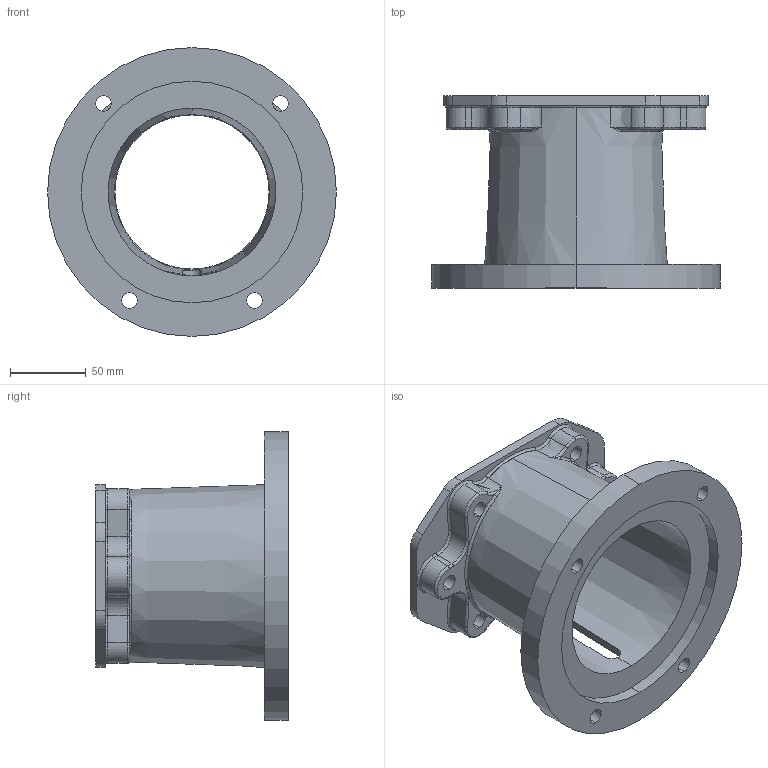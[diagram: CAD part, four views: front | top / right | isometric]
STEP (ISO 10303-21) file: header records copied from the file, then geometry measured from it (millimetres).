
FILE_DESCRIPTION (( 'STEP AP203' ), '1' );
FILE_NAME ('E575502B.STEP', '2014-11-03T15:51:50', ( '' ), ( '' ), 'SwSTEP 2.0', 'SolidWorks 2014', '' );
FILE_SCHEMA (( 'CONFIG_CONTROL_DESIGN' ));
Length unit declared in the file: inch
Products named in the file (1): E575502B
Bounding box: 190.5 x 127 x 190.5 mm (x, y, z)
Volume: 534665.1 mm3; surface area: 155757.3 mm2
Topology: 1 solids, 1 shells, 153 faces, 402 edges, 244 vertices
Faces by surface type: cylinder 64, torus 44, plane 25, bspline 16, cone 4
Entity records: 6007 total; most frequent: CARTESIAN_POINT 2104, DIRECTION 858, ORIENTED_EDGE 796, EDGE_CURVE 398, AXIS2_PLACEMENT_3D 370, VERTEX_POINT 244, CIRCLE 232, EDGE_LOOP 174
